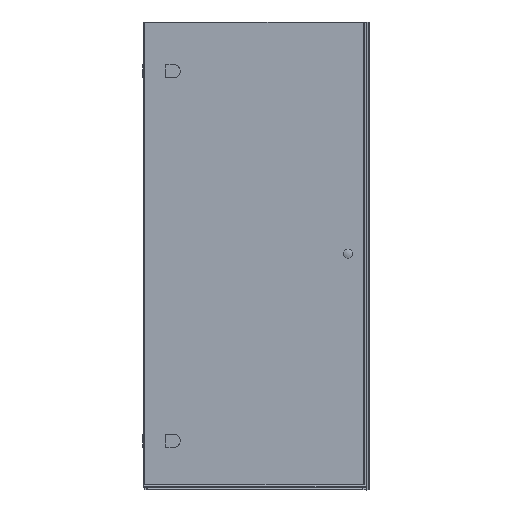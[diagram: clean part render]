
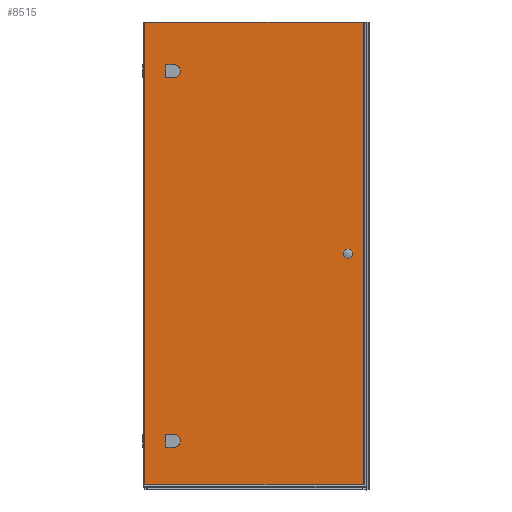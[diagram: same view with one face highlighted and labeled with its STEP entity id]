
A CAD part, left-side view. The second image highlights one B-rep face of the part: STEP entity #8515.
In plain terms, the highlighted planar face has unit normal (-1, 0, 0).
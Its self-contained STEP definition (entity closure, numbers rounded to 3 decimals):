
#105=LINE($,#11790,#985);
#109=LINE($,#11798,#989);
#113=LINE($,#11809,#993);
#155=LINE($,#11918,#1035);
#159=LINE($,#11926,#1039);
#163=LINE($,#11937,#1043);
#282=LINE($,#12245,#1162);
#573=LINE($,#13751,#1453);
#578=LINE($,#13767,#1458);
#598=LINE($,#13810,#1478);
#985=VECTOR($,#9499,52.);
#989=VECTOR($,#9505,23.);
#993=VECTOR($,#9517,23.);
#1035=VECTOR($,#9623,52.);
#1039=VECTOR($,#9629,23.);
#1043=VECTOR($,#9641,23.);
#1162=VECTOR($,#9932,1975.4);
#1453=VECTOR($,#10843,1975.4);
#1458=VECTOR($,#10864,939.8);
#1478=VECTOR($,#10930,939.8);
#1867=FACE_BOUND($,#2751,.T.);
#1868=FACE_BOUND($,#2752,.T.);
#1869=FACE_BOUND($,#2753,.T.);
#2751=EDGE_LOOP($,(#6614,#6615,#6616,#6617));
#2752=EDGE_LOOP($,(#6618,#6619,#6620,#6621));
#2753=EDGE_LOOP($,(#6622,#6623,#6624,#6625));
#2941=CIRCLE($,#8730,26.);
#2953=CIRCLE($,#8767,26.);
#3196=VERTEX_POINT($,#11788);
#3197=VERTEX_POINT($,#11789);
#3200=VERTEX_POINT($,#11797);
#3202=VERTEX_POINT($,#11803);
#3237=VERTEX_POINT($,#11916);
#3238=VERTEX_POINT($,#11917);
#3241=VERTEX_POINT($,#11925);
#3243=VERTEX_POINT($,#11931);
#3346=VERTEX_POINT($,#12242);
#3347=VERTEX_POINT($,#12244);
#3677=VERTEX_POINT($,#13733);
#3679=VERTEX_POINT($,#13749);
#3955=EDGE_CURVE($,#3196,#3197,#105,.T.);
#3959=EDGE_CURVE($,#3197,#3200,#109,.T.);
#3962=EDGE_CURVE($,#3200,#3202,#2941,.T.);
#3965=EDGE_CURVE($,#3202,#3196,#113,.T.);
#4017=EDGE_CURVE($,#3237,#3238,#155,.T.);
#4021=EDGE_CURVE($,#3238,#3241,#159,.T.);
#4024=EDGE_CURVE($,#3241,#3243,#2953,.T.);
#4027=EDGE_CURVE($,#3243,#3237,#163,.T.);
#4178=EDGE_CURVE($,#3347,#3346,#282,.T.);
#4669=EDGE_CURVE($,#3677,#3679,#573,.T.);
#4677=EDGE_CURVE($,#3677,#3346,#578,.T.);
#4697=EDGE_CURVE($,#3347,#3679,#598,.T.);
#6614=ORIENTED_EDGE($,*,*,#3955,.T.);
#6615=ORIENTED_EDGE($,*,*,#3959,.T.);
#6616=ORIENTED_EDGE($,*,*,#3962,.T.);
#6617=ORIENTED_EDGE($,*,*,#3965,.T.);
#6618=ORIENTED_EDGE($,*,*,#4017,.T.);
#6619=ORIENTED_EDGE($,*,*,#4021,.T.);
#6620=ORIENTED_EDGE($,*,*,#4024,.T.);
#6621=ORIENTED_EDGE($,*,*,#4027,.T.);
#6622=ORIENTED_EDGE($,*,*,#4178,.T.);
#6623=ORIENTED_EDGE($,*,*,#4677,.F.);
#6624=ORIENTED_EDGE($,*,*,#4669,.T.);
#6625=ORIENTED_EDGE($,*,*,#4697,.F.);
#7615=PLANE($,#9196);
#8515=ADVANCED_FACE($,(#1867,#1868,#1869),#7615,.T.);
#8730=AXIS2_PLACEMENT_3D($,#11804,#9510,#9511);
#8767=AXIS2_PLACEMENT_3D($,#11932,#9634,#9635);
#9196=AXIS2_PLACEMENT_3D($,#13809,#10928,#10929);
#9499=DIRECTION($,(0.,0.,1.));
#9505=DIRECTION($,(0.,-1.,0.));
#9510=DIRECTION('center_axis',(1.,0.,0.));
#9511=DIRECTION('ref_axis',(0.,0.,
-1.));
#9517=DIRECTION($,(0.,1.,0.));
#9623=DIRECTION($,(0.,0.,1.));
#9629=DIRECTION($,(0.,-1.,0.));
#9634=DIRECTION('center_axis',(1.,0.,0.));
#9635=DIRECTION('ref_axis',(0.,0.,
-1.));
#9641=DIRECTION($,(0.,1.,0.));
#9932=DIRECTION($,(0.,0.,-1.));
#10843=DIRECTION($,(0.,0.,1.));
#10864=DIRECTION($,(0.,1.,0.));
#10928=DIRECTION('center_axis',(-1.,0.,0.));
#10929=DIRECTION('ref_axis',(0.,-1.,0.));
#10930=DIRECTION($,(0.,-1.,0.));
#11788=CARTESIAN_POINT('',(1185.733,602.456,1248.944));
#11789=CARTESIAN_POINT('',(1185.733,602.456,1300.944));
#11790=CARTESIAN_POINT($,(1185.733,602.456,402.944));
#11797=CARTESIAN_POINT('',(1185.733,579.456,1300.944));
#11798=CARTESIAN_POINT($,(1185.733,644.956,1300.944));
#11803=CARTESIAN_POINT('',(1185.733,579.456,1248.944));
#11804=CARTESIAN_POINT('Origin',(1185.733,579.456,1274.944));
#11809=CARTESIAN_POINT($,(1185.733,656.456,1248.944));
#11916=CARTESIAN_POINT('',(1185.733,602.456,-331.056));
#11917=CARTESIAN_POINT('',(1185.733,602.456,-279.056));
#11918=CARTESIAN_POINT($,(1185.733,602.456,-387.056));
#11925=CARTESIAN_POINT('',(1185.733,579.456,-279.056));
#11926=CARTESIAN_POINT($,(1185.733,644.956,-279.056));
#11931=CARTESIAN_POINT('',(1185.733,579.456,-331.056));
#11932=CARTESIAN_POINT('Origin',(1185.733,579.456,-305.056));
#11937=CARTESIAN_POINT($,(1185.733,656.456,-331.056));
#12242=CARTESIAN_POINT('',(1185.733,705.756,-490.456));
#12244=CARTESIAN_POINT('',(1185.733,705.756,1484.944));
#12245=CARTESIAN_POINT($,(1185.733,705.756,-495.056));
#13733=CARTESIAN_POINT('',(1185.733,-234.044,-490.456));
#13749=CARTESIAN_POINT('',(1185.733,-234.044,1484.944));
#13751=CARTESIAN_POINT($,(1185.733,-234.044,-495.056));
#13767=CARTESIAN_POINT($,(1185.733,-244.044,-490.456));
#13809=CARTESIAN_POINT('Origin',(1185.733,710.456,-495.056));
#13810=CARTESIAN_POINT($,(1185.733,710.456,1484.944));
